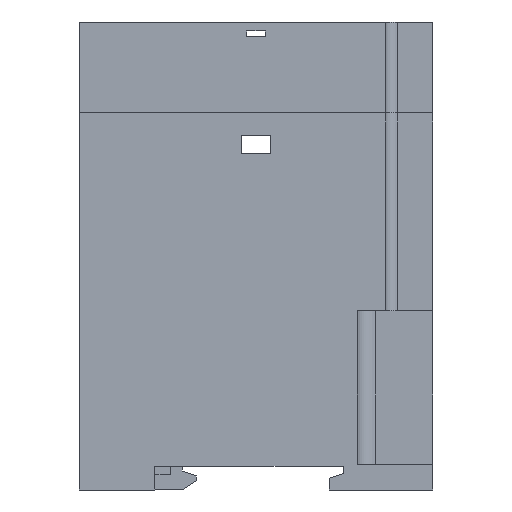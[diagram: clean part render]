
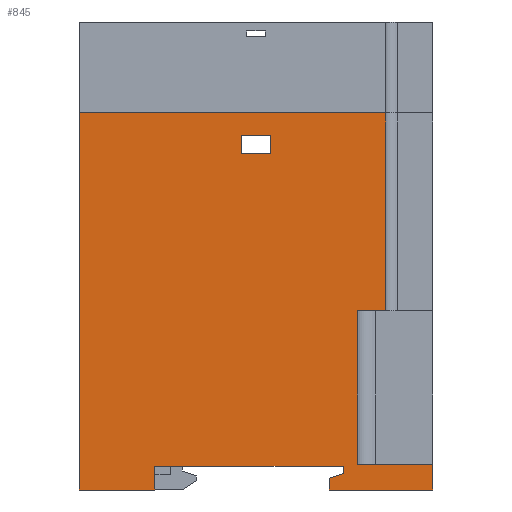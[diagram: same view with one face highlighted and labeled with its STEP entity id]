
A CAD part, left-side view. The second image highlights one B-rep face of the part: STEP entity #845.
In plain terms, the highlighted planar face has unit normal (-1, 0, 0).
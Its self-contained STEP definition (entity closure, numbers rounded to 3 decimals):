
#845=ADVANCED_FACE('',(#17256,#17258),#17260,.T.);
#17256=FACE_BOUND('',#17257,.T.);
#17257=EDGE_LOOP('',(#33563,#33564,#33565,#33566,#33567,#33568,#33569,#33570,#33571,
#33572,#33573,#33574,#33575,#33576));
#17258=FACE_BOUND('',#17259,.T.);
#17259=EDGE_LOOP('',(#33577,#33578,#33579,#33580));
#17260=PLANE('',#17261);
#17261=AXIS2_PLACEMENT_3D('',#17262,#17263,#17264);
#17262=CARTESIAN_POINT('',(-45.,0.,0.));
#17263=DIRECTION('',(-1.,0.,0.));
#17264=DIRECTION('',(0.,-1.,0.));
#33563=ORIENTED_EDGE('',*,*,#43832,.T.);
#33564=ORIENTED_EDGE('',*,*,#43794,.T.);
#33565=ORIENTED_EDGE('',*,*,#43833,.T.);
#33566=ORIENTED_EDGE('',*,*,#43834,.T.);
#33567=ORIENTED_EDGE('',*,*,#43835,.T.);
#33568=ORIENTED_EDGE('',*,*,#43836,.T.);
#33569=ORIENTED_EDGE('',*,*,#43837,.T.);
#33570=ORIENTED_EDGE('',*,*,#43838,.F.);
#33571=ORIENTED_EDGE('',*,*,#43839,.F.);
#33572=ORIENTED_EDGE('',*,*,#43813,.T.);
#33573=ORIENTED_EDGE('',*,*,#43840,.T.);
#33574=ORIENTED_EDGE('',*,*,#43768,.T.);
#33575=ORIENTED_EDGE('',*,*,#43841,.T.);
#33576=ORIENTED_EDGE('',*,*,#43842,.T.);
#33577=ORIENTED_EDGE('',*,*,#43739,.T.);
#33578=ORIENTED_EDGE('',*,*,#43746,.T.);
#33579=ORIENTED_EDGE('',*,*,#43752,.T.);
#33580=ORIENTED_EDGE('',*,*,#43756,.T.);
#43739=EDGE_CURVE('',#48892,#48890,#48893,.F.);
#43746=EDGE_CURVE('',#48890,#48902,#48904,.F.);
#43752=EDGE_CURVE('',#48902,#48912,#48914,.F.);
#43756=EDGE_CURVE('',#48912,#48892,#48918,.F.);
#43768=EDGE_CURVE('',#48942,#48940,#48943,.T.);
#43794=EDGE_CURVE('',#48979,#48986,#48988,.T.);
#43813=EDGE_CURVE('',#49024,#49022,#49025,.T.);
#43832=EDGE_CURVE('',#49058,#48979,#49059,.F.);
#43833=EDGE_CURVE('',#48986,#49060,#49061,.T.);
#43834=EDGE_CURVE('',#49060,#49062,#49063,.T.);
#43835=EDGE_CURVE('',#49062,#49064,#49065,.F.);
#43836=EDGE_CURVE('',#49064,#49066,#49067,.F.);
#43837=EDGE_CURVE('',#49066,#49068,#49069,.F.);
#43838=EDGE_CURVE('',#49070,#49068,#49071,.T.);
#43839=EDGE_CURVE('',#49024,#49070,#49072,.T.);
#43840=EDGE_CURVE('',#49022,#48942,#49073,.F.);
#43841=EDGE_CURVE('',#48940,#49074,#49075,.F.);
#43842=EDGE_CURVE('',#49074,#49058,#49076,.F.);
#48890=VERTEX_POINT('',#57468);
#48892=VERTEX_POINT('',#57472);
#48893=LINE('',#57473,#57474);
#48902=VERTEX_POINT('',#57494);
#48904=LINE('',#57498,#57499);
#48912=VERTEX_POINT('',#57516);
#48914=LINE('',#57520,#57521);
#48918=LINE('',#57532,#57533);
#48940=VERTEX_POINT('',#57576);
#48942=VERTEX_POINT('',#57580);
#48943=LINE('',#57581,#57582);
#48979=VERTEX_POINT('',#57659);
#48986=VERTEX_POINT('',#57674);
#48988=LINE('',#57678,#57679);
#49022=VERTEX_POINT('',#57748);
#49024=VERTEX_POINT('',#57752);
#49025=LINE('',#57753,#57754);
#49058=VERTEX_POINT('',#57824);
#49059=LINE('',#57825,#57826);
#49060=VERTEX_POINT('',#57828);
#49061=LINE('',#57829,#57830);
#49062=VERTEX_POINT('',#57832);
#49063=LINE('',#57833,#57834);
#49064=VERTEX_POINT('',#57836);
#49065=LINE('',#57837,#57838);
#49066=VERTEX_POINT('',#57840);
#49067=LINE('',#57841,#57842);
#49068=VERTEX_POINT('',#57844);
#49069=LINE('',#57845,#57846);
#49070=VERTEX_POINT('',#57848);
#49071=LINE('',#57849,#57850);
#49072=LINE('',#57852,#57853);
#49073=LINE('',#57855,#57856);
#49074=VERTEX_POINT('',#57858);
#49075=LINE('',#57859,#57860);
#49076=LINE('',#57862,#57863);
#57468=CARTESIAN_POINT('',(-45.,-40.6,71.3));
#57472=CARTESIAN_POINT('',(-45.,-40.6,75.3));
#57473=CARTESIAN_POINT('',(-45.,-40.6,71.3));
#57474=VECTOR('',#57475,1.);
#57475=DIRECTION('',(0.,0.,1.));
#57494=CARTESIAN_POINT('',(-45.,-34.4,71.3));
#57498=CARTESIAN_POINT('',(-45.,-34.4,71.3));
#57499=VECTOR('',#57500,1.);
#57500=DIRECTION('',(0.,-1.,0.));
#57516=CARTESIAN_POINT('',(-45.,-34.4,75.3));
#57520=CARTESIAN_POINT('',(-45.,-34.4,75.3));
#57521=VECTOR('',#57522,1.);
#57522=DIRECTION('',(0.,0.,-1.));
#57532=CARTESIAN_POINT('',(-45.,-40.6,75.3));
#57533=VECTOR('',#57534,1.);
#57534=DIRECTION('',(0.,1.,0.));
#57576=CARTESIAN_POINT('',(-45.,-56.,5.005));
#57580=CARTESIAN_POINT('',(-45.,-16.,5.005));
#57581=CARTESIAN_POINT('',(-45.,-16.,5.005));
#57582=VECTOR('',#57583,1.);
#57583=DIRECTION('',(0.,-1.,0.));
#57659=CARTESIAN_POINT('',(-45.,-53.,0.));
#57674=CARTESIAN_POINT('',(-45.,-75.,0.));
#57678=CARTESIAN_POINT('',(-45.,-53.,0.));
#57679=VECTOR('',#57680,1.);
#57680=DIRECTION('',(0.,-1.,0.));
#57748=CARTESIAN_POINT('',(-45.,-16.,0.));
#57752=CARTESIAN_POINT('',(-45.,0.,0.));
#57753=CARTESIAN_POINT('',(-45.,0.,0.));
#57754=VECTOR('',#57755,1.);
#57755=DIRECTION('',(0.,-1.,0.));
#57824=CARTESIAN_POINT('',(-45.,-53.,2.505));
#57825=CARTESIAN_POINT('',(-45.,-53.,0.));
#57826=VECTOR('',#57827,1.);
#57827=DIRECTION('',(0.,0.,1.));
#57828=CARTESIAN_POINT('',(-45.,-75.,5.5));
#57829=CARTESIAN_POINT('',(-45.,-75.,0.));
#57830=VECTOR('',#57831,1.);
#57831=DIRECTION('',(0.,0.,1.));
#57832=CARTESIAN_POINT('',(-45.,-59.,5.5));
#57833=CARTESIAN_POINT('',(-45.,-75.,5.5));
#57834=VECTOR('',#57835,1.);
#57835=DIRECTION('',(0.,1.,0.));
#57836=CARTESIAN_POINT('',(-45.,-59.,38.));
#57837=CARTESIAN_POINT('',(-45.,-59.,38.));
#57838=VECTOR('',#57839,1.);
#57839=DIRECTION('',(0.,0.,-1.));
#57840=CARTESIAN_POINT('',(-45.,-65.,38.));
#57841=CARTESIAN_POINT('',(-45.,-65.,38.));
#57842=VECTOR('',#57843,1.);
#57843=DIRECTION('',(0.,1.,0.));
#57844=CARTESIAN_POINT('',(-45.,-65.,80.));
#57845=CARTESIAN_POINT('',(-45.,-65.,80.));
#57846=VECTOR('',#57847,1.);
#57847=DIRECTION('',(0.,0.,-1.));
#57848=CARTESIAN_POINT('',(-45.,0.,80.));
#57849=CARTESIAN_POINT('',(-45.,0.,80.));
#57850=VECTOR('',#57851,1.);
#57851=DIRECTION('',(0.,-1.,0.));
#57852=CARTESIAN_POINT('',(-45.,0.,0.));
#57853=VECTOR('',#57854,1.);
#57854=DIRECTION('',(0.,0.,1.));
#57855=CARTESIAN_POINT('',(-45.,-16.,5.005));
#57856=VECTOR('',#57857,1.);
#57857=DIRECTION('',(0.,0.,-1.));
#57858=CARTESIAN_POINT('',(-45.,-56.,3.505));
#57859=CARTESIAN_POINT('',(-45.,-56.,3.505));
#57860=VECTOR('',#57861,1.);
#57861=DIRECTION('',(0.,0.,1.));
#57862=CARTESIAN_POINT('',(-45.,-53.,2.505));
#57863=VECTOR('',#57864,1.);
#57864=DIRECTION('',(0.,-0.949,0.316));
